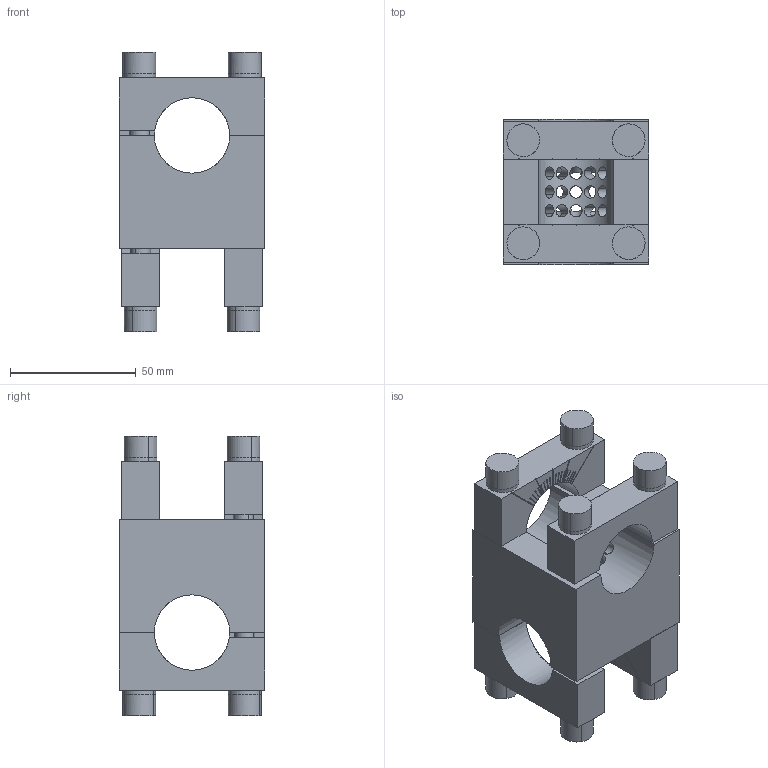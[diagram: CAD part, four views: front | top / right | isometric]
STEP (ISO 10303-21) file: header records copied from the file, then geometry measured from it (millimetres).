
FILE_DESCRIPTION(('CATIA V5 STEP Exchange'),'2;1');
FILE_NAME('\\Tcn-server2\产品部\2-PDD Database\6-Gripping\4-客户用文件\1-3D\Euro gripper-3D model for design-V4\EGT130.stp','2013-12-10T10:32:22+00:00',('none'),('none'),'CATIA Version 5 Release 21 GA (IN-10)','CATIA V5 STEP AP203','none');
FILE_SCHEMA(('CONFIG_CONTROL_DESIGN'));
Length unit declared in the file: millimetre
Products named in the file (1): EGT130
Bounding box: 58 x 58 x 111.2 mm (x, y, z)
Volume: 170716.3 mm3; surface area: 62083.5 mm2
Topology: 21 solids, 21 shells, 576 faces, 1534 edges, 984 vertices
Faces by surface type: plane 340, cylinder 178, cone 58
Entity records: 22819 total; most frequent: CARTESIAN_POINT 9650, ORIENTED_EDGE 2972, DIRECTION 2138, EDGE_CURVE 1486, VERTEX_POINT 984, VECTOR 810, LINE 810, AXIS2_PLACEMENT_3D 803
